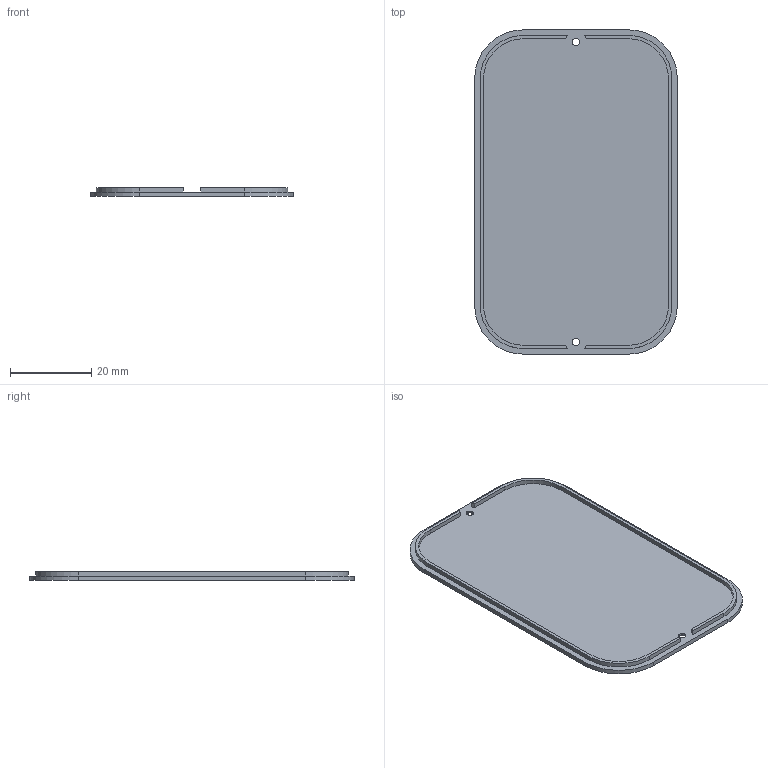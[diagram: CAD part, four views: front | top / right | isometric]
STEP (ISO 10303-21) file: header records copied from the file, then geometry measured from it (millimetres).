
FILE_DESCRIPTION(('FreeCAD Model'),'2;1');
FILE_NAME('Open CASCADE Shape Model','2026-09-21T09:51:53',('FreeCAD'),( 'FreeCAD'),'Open CASCADE STEP processor 7.8','FreeCAD','Unknown');
FILE_SCHEMA(('AUTOMOTIVE_DESIGN { 1 0 10303 214 1 1 1 1 }'));
Length unit declared in the file: millimetre
Products named in the file (1): Open CASCADE STEP translator 7.8 2
Bounding box: 50 x 80 x 2.2 mm (x, y, z)
Volume: 4443.1 mm3; surface area: 8509.9 mm2
Topology: 1 solids, 1 shells, 42 faces, 112 edges, 76 vertices
Faces by surface type: plane 22, cylinder 20
Full cylindrical faces by diameter (mm): 1.8 x2, 3.3 x2
Entity records: 1350 total; most frequent: DIRECTION 242, CARTESIAN_POINT 231, ORIENTED_EDGE 224, EDGE_CURVE 112, AXIS2_PLACEMENT_3D 87, VERTEX_POINT 76, LINE 68, VECTOR 68
